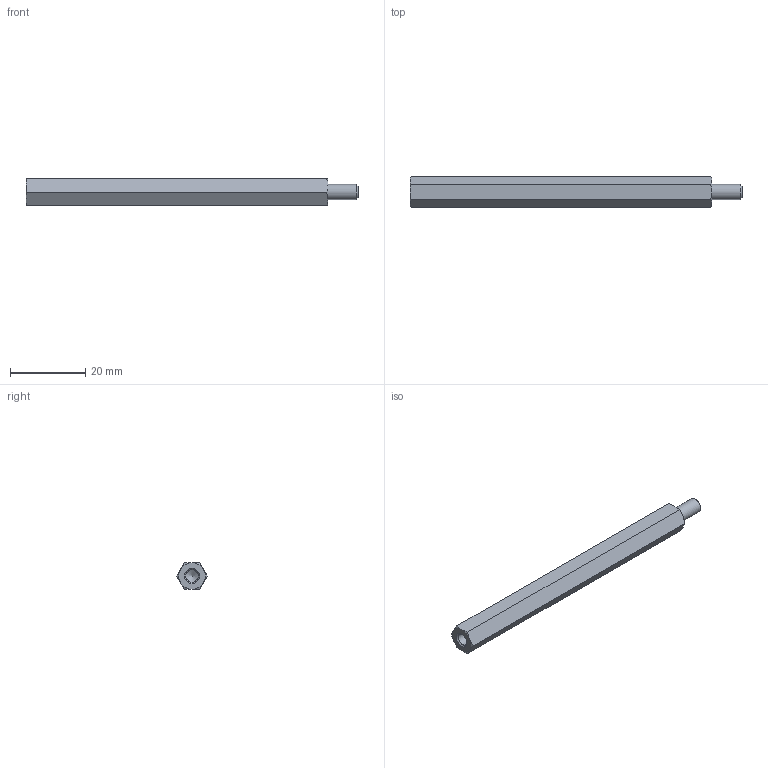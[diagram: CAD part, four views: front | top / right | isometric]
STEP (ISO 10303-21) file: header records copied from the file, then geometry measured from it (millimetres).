
FILE_DESCRIPTION( ( 'STEP AP203' ), '1' );
FILE_NAME( 'C:/Temp/Ganter_Step_05_03_2020/data/3_2/gn6220/gn6220_ni/Stainless Steel-Spacer GN 6220-NI-M4-80-B.stp', '2020-03-13T05:43:12', ( 'License CC BY-ND 4.0' ), ( 'CADENAS' ), ' ', 'PARTsolutions', ' ' );
FILE_SCHEMA( ( 'CONFIG_CONTROL_DESIGN' ) );
Length unit declared in the file: millimetre
Products named in the file (1): _Stainless Steel-Spacer GN 6220-NI-M4-80-B
Bounding box: 88 x 8.08 x 7 mm (x, y, z)
Volume: 3376.2 mm3; surface area: 2257.8 mm2
Topology: 1 solids, 1 shells, 26 faces, 55 edges, 32 vertices
Faces by surface type: cone 15, plane 9, cylinder 2
Full cylindrical faces by diameter (mm): 3.242 x1, 4 x1
Entity records: 746 total; most frequent: CARTESIAN_POINT 210, DIRECTION 96, ORIENTED_EDGE 96, EDGE_CURVE 48, AXIS2_PLACEMENT_3D 45, EDGE_LOOP 32, VERTEX_POINT 31, FACE_OUTER_BOUND 28
